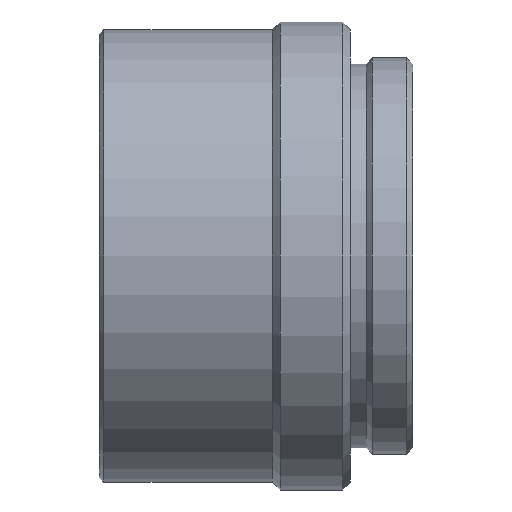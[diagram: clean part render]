
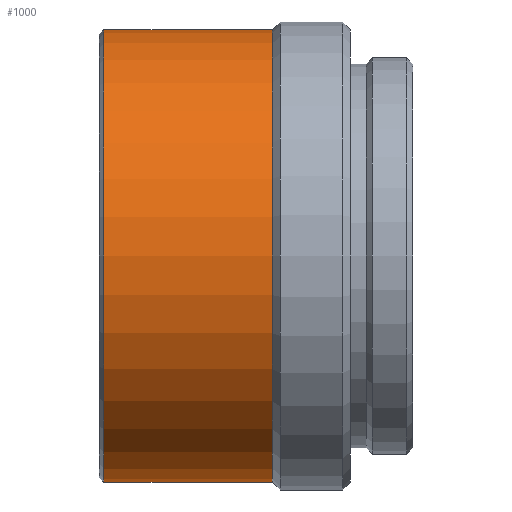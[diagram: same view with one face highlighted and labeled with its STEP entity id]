
A CAD part, front view. The second image highlights one B-rep face of the part: STEP entity #1000.
In plain terms, the highlighted cylindrical face has radius 14.5 mm (diameter 29 mm), a partial arc.
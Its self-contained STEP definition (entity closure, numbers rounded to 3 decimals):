
#8 = DIRECTION ( 'NONE',  ( -1., 0., 0. ) ) ;
#65 = DIRECTION ( 'NONE',  ( -1., 0., 0. ) ) ;
#108 = CIRCLE ( 'NONE', #481, 14.5 ) ;
#211 = CARTESIAN_POINT ( 'NONE',  ( -33.336, 0., 0. ) ) ;
#231 = VERTEX_POINT ( 'NONE', #623 ) ;
#356 = AXIS2_PLACEMENT_3D ( 'NONE', #211, #65, #378 ) ;
#358 = CARTESIAN_POINT ( 'NONE',  ( -33.336, 0., 14.5 ) ) ;
#378 = DIRECTION ( 'NONE',  ( 0., 0., 1. ) ) ;
#418 = VERTEX_POINT ( 'NONE', #1765 ) ;
#481 = AXIS2_PLACEMENT_3D ( 'NONE', #650, #1235, #799 ) ;
#511 = ORIENTED_EDGE ( 'NONE', *, *, #810, .T. ) ;
#623 = CARTESIAN_POINT ( 'NONE',  ( -22.526, 0., 14.5 ) ) ;
#647 = FACE_OUTER_BOUND ( 'NONE', #1333, .T. ) ;
#650 = CARTESIAN_POINT ( 'NONE',  ( -22.526, 0., 0. ) ) ;
#678 = ORIENTED_EDGE ( 'NONE', *, *, #1529, .F. ) ;
#703 = CYLINDRICAL_SURFACE ( 'NONE', #1874, 14.5 ) ;
#710 = ORIENTED_EDGE ( 'NONE', *, *, #1833, .T. ) ;
#727 = DIRECTION ( 'NONE',  ( -1., 0., 0. ) ) ;
#799 = DIRECTION ( 'NONE',  ( 0., 0., 1. ) ) ;
#810 = EDGE_CURVE ( 'NONE', #1491, #231, #108, .T. ) ;
#865 = VERTEX_POINT ( 'NONE', #358 ) ;
#876 = EDGE_CURVE ( 'NONE', #418, #865, #1751, .T. ) ;
#907 = CARTESIAN_POINT ( 'NONE',  ( -36.136, 0., 0. ) ) ;
#1000 = ADVANCED_FACE ( 'NONE', ( #647 ), #703, .T. ) ;
#1124 = VECTOR ( 'NONE', #1441, 1000. ) ;
#1204 = DIRECTION ( 'NONE',  ( 0., 0., 1. ) ) ;
#1235 = DIRECTION ( 'NONE',  ( -1., 0., 0. ) ) ;
#1280 = ORIENTED_EDGE ( 'NONE', *, *, #876, .F. ) ;
#1330 = VECTOR ( 'NONE', #727, 1000. ) ;
#1333 = EDGE_LOOP ( 'NONE', ( #678, #511, #710, #1280 ) ) ;
#1365 = CARTESIAN_POINT ( 'NONE',  ( -36.136, 0., -14.5 ) ) ;
#1441 = DIRECTION ( 'NONE',  ( -1., 0., 0. ) ) ;
#1491 = VERTEX_POINT ( 'NONE', #1828 ) ;
#1529 = EDGE_CURVE ( 'NONE', #1491, #418, #1845, .T. ) ;
#1640 = LINE ( 'NONE', #1732, #1124 ) ;
#1732 = CARTESIAN_POINT ( 'NONE',  ( -36.136, 0., 14.5 ) ) ;
#1751 = CIRCLE ( 'NONE', #356, 14.5 ) ;
#1765 = CARTESIAN_POINT ( 'NONE',  ( -33.336, 0., -14.5 ) ) ;
#1828 = CARTESIAN_POINT ( 'NONE',  ( -22.526, 0., -14.5 ) ) ;
#1833 = EDGE_CURVE ( 'NONE', #231, #865, #1640, .T. ) ;
#1845 = LINE ( 'NONE', #1365, #1330 ) ;
#1874 = AXIS2_PLACEMENT_3D ( 'NONE', #907, #8, #1204 ) ;
